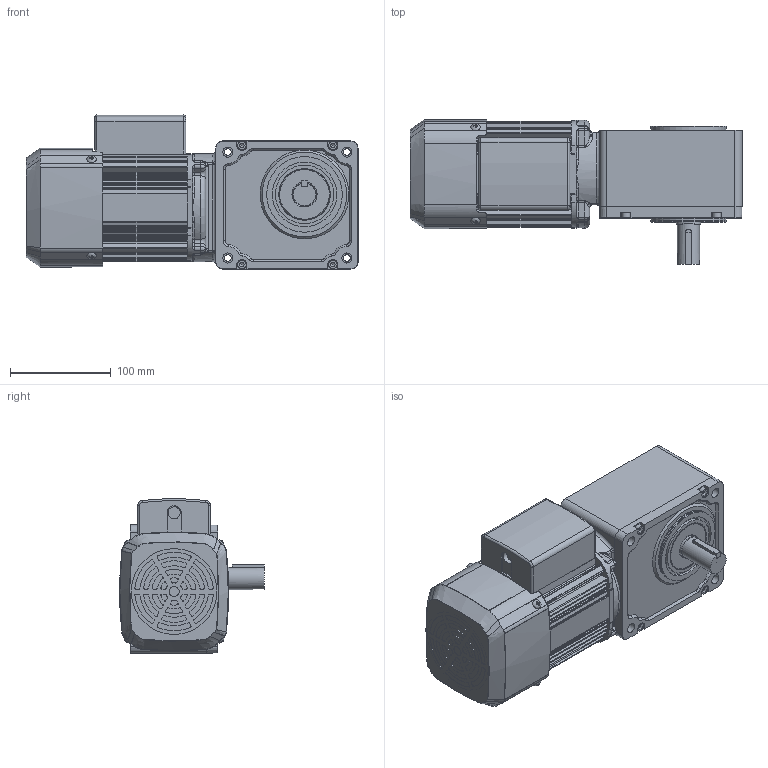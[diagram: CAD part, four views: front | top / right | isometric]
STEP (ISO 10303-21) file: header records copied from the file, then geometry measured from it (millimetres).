
FILE_DESCRIPTION( ( 'Unknown' ), '1' );
FILE_NAME( 'W:/gm/3D-WEB/GM-SHY/完成品/パーツ/完成品/三相/shymbrr_01_5-240.stp', 'Unknown', ( 'Unknown' ), ( 'Unknown' ), 'PSStep 11.0', 'Unknown', ' ' );
FILE_SCHEMA( ( 'AUTOMOTIVE_DESIGN { 1 0 10303 214 1 1 1 1 }' ) );
Length unit declared in the file: millimetre
Products named in the file (3): P165063_牒埳偷(炡暊A)
Bounding box: 329 x 143.5 x 152.82 mm (x, y, z)
Volume: 2622263.8 mm3; surface area: 391894.8 mm2
Topology: 3 solids, 25 shells, 1393 faces, 3586 edges, 2283 vertices
Faces by surface type: cylinder 578, plane 527, bspline 102, cone 90, torus 82, sphere 8, offset 6
Full cylindrical faces by diameter (mm): 3.3 x4, 4 x4, 4.134 x8, 4.5 x8, 4.8 x4, 4.917 x1, 5 x4, 5.5 x4, 6 x2, 6.2 x1, 6.647 x4, 8.5 x4, 10 x5, 12 x2, 15 x1, 16 x1, 22 x1, 24 x1, 24.1 x1, 28 x1, 37 x1, 40 x1, 46 x1, 47.529 x1, 49.4 x1, 50 x1, 58 x2, 64 x2, 67.4 x1, 68 x1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
Entity records: 63987 total; most frequent: CARTESIAN_POINT 19636, DIRECTION 7112, ORIENTED_EDGE 6742, EDGE_CURVE 3371, AXIS2_PLACEMENT_3D 2777, VERTEX_POINT 2236, EDGE_LOOP 1612, LINE 1558
